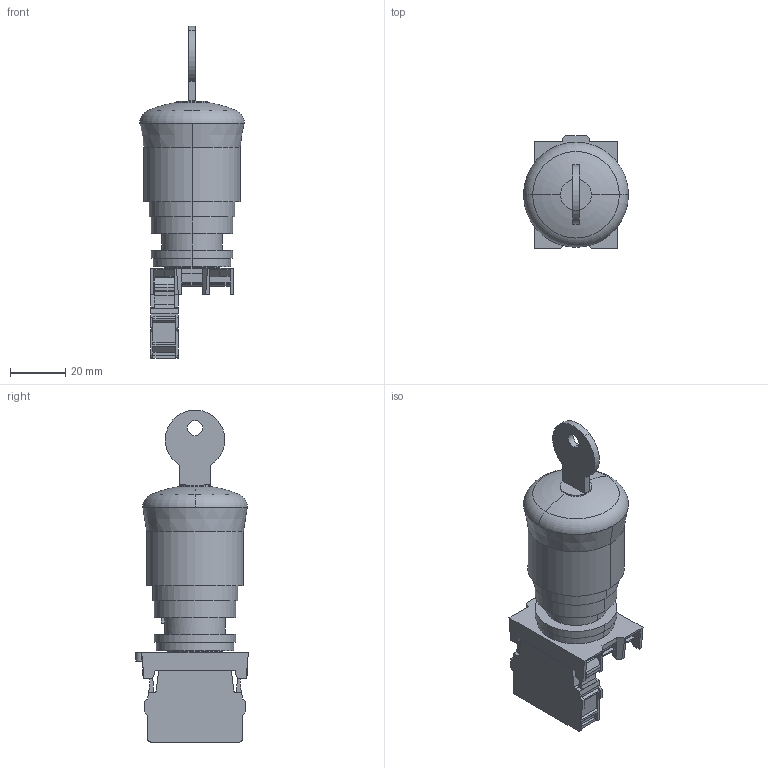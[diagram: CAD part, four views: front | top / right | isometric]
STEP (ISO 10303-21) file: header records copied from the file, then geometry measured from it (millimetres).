
FILE_DESCRIPTION( ( '' ), '1' );
FILE_NAME( '//expscmdclustefs.cadenas.external/client_exchange/iodir/jobs/output/wkb45409783_no0/STEP/216515_2_03.stp', '2012-05-29T19:40:17', ( '' ), ( '' ), ' ', ' ', ' ' );
FILE_SCHEMA( ( 'CONFIG_CONTROL_DESIGN' ) );
Length unit declared in the file: millimetre
Products named in the file (4): 1; 2; 3; 4
Bounding box: 38 x 40.8 x 120.1 mm (x, y, z)
Volume: 64953.6 mm3; surface area: 17314.7 mm2
Topology: 4 solids, 4 shells, 351 faces, 971 edges, 642 vertices
Faces by surface type: plane 248, cylinder 79, cone 20, torus 4
Entity records: 11328 total; most frequent: CARTESIAN_POINT 2020, ORIENTED_EDGE 1942, DIRECTION 1870, EDGE_CURVE 971, LINE 746, VECTOR 746, VERTEX_POINT 642, AXIS2_PLACEMENT_3D 562
